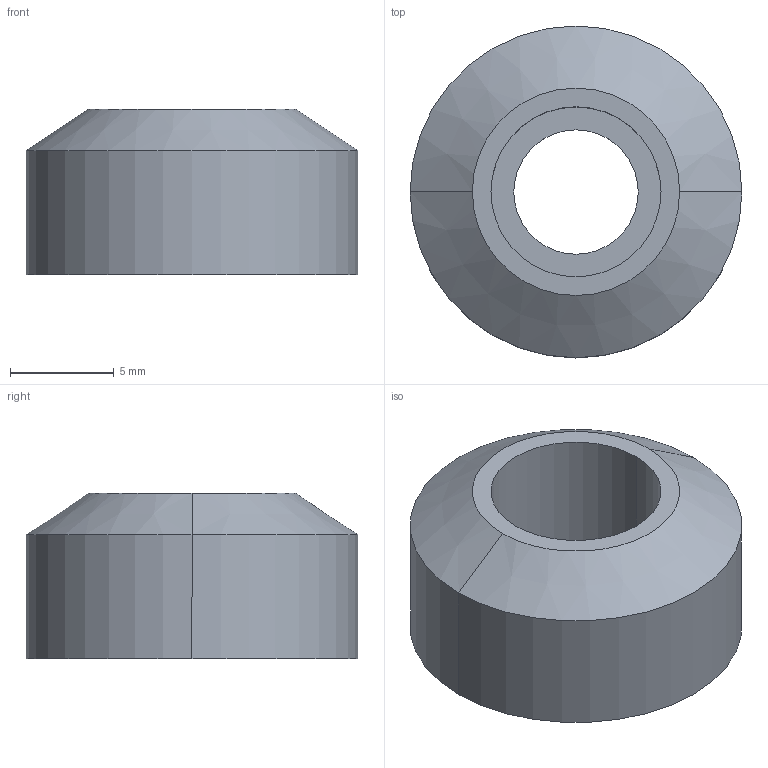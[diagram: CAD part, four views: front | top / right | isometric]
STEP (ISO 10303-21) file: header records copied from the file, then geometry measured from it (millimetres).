
FILE_DESCRIPTION((''),'2;1');
FILE_NAME('6412.01.23.stp','2023-10-09T16:35:13',(''),(''),'Mechanical Desktop 2006','Mechanical Desktop 2006',', , ');
FILE_SCHEMA(('CONFIG_CONTROL_DESIGN'));
Length unit declared in the file: millimetre
Products named in the file (1): Product
Bounding box: 16 x 16 x 8 mm (x, y, z)
Volume: 1103.1 mm3; surface area: 864.2 mm2
Topology: 1 solids, 1 shells, 11 faces, 22 edges, 14 vertices
Faces by surface type: cylinder 6, plane 3, cone 2
Entity records: 393 total; most frequent: DIRECTION 60, CARTESIAN_POINT 48, ORIENTED_EDGE 44, AXIS2_PLACEMENT_3D 26, EDGE_CURVE 22, VERTEX_POINT 14, CIRCLE 14, EDGE_LOOP 14
